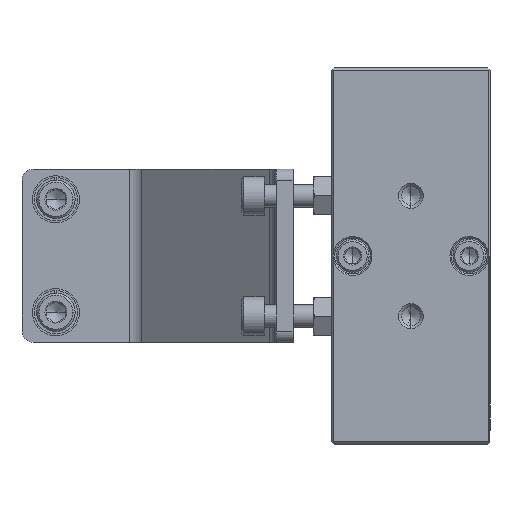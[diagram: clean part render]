
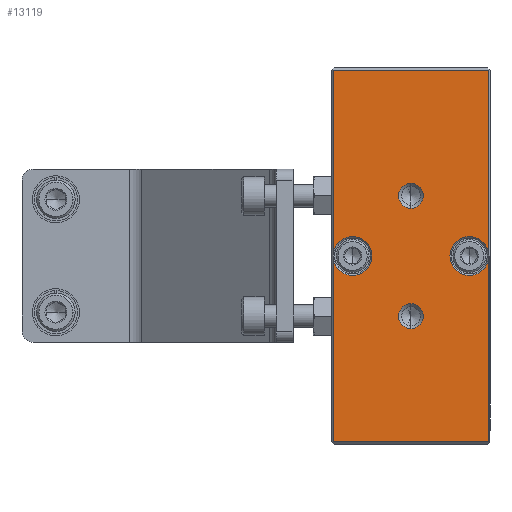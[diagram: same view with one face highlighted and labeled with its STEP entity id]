
A CAD part, left-side view. The second image highlights one B-rep face of the part: STEP entity #13119.
In plain terms, the highlighted planar face has unit normal (-1, 0, 0).
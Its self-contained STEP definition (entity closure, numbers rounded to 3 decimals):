
#511 = DIRECTION ( 'NONE',  ( 0., 0., 1. ) ) ;
#594 = CARTESIAN_POINT ( 'NONE',  ( -27., -20.6, 49.4 ) ) ;
#811 = CARTESIAN_POINT ( 'NONE',  ( -27., 0., 16. ) ) ;
#1122 = VECTOR ( 'NONE', #28813, 1000. ) ;
#1206 = EDGE_CURVE ( 'NONE', #13111, #19270, #12933, .T. ) ;
#1227 = VERTEX_POINT ( 'NONE', #19540 ) ;
#1351 = CARTESIAN_POINT ( 'NONE',  ( -27., 0., -16. ) ) ;
#1631 = LINE ( 'NONE', #7261, #17648 ) ;
#1732 = CARTESIAN_POINT ( 'NONE',  ( -27., 0., -12.7 ) ) ;
#2300 = ORIENTED_EDGE ( 'NONE', *, *, #5032, .T. ) ;
#3214 = EDGE_CURVE ( 'NONE', #23303, #13111, #21211, .T. ) ;
#3936 = DIRECTION ( 'NONE',  ( -1., 0., 0. ) ) ;
#4191 = VERTEX_POINT ( 'NONE', #36907 ) ;
#4200 = CIRCLE ( 'NONE', #22204, 3.3 ) ;
#4236 = CARTESIAN_POINT ( 'NONE',  ( -27., 0., 12.7 ) ) ;
#4483 = VECTOR ( 'NONE', #511, 1000. ) ;
#4630 = DIRECTION ( 'NONE',  ( 0., 0., 1. ) ) ;
#5032 = EDGE_CURVE ( 'NONE', #23491, #26998, #1631, .T. ) ;
#5531 = CARTESIAN_POINT ( 'NONE',  ( -27., 20.6, -49.4 ) ) ;
#5625 = ORIENTED_EDGE ( 'NONE', *, *, #39515, .F. ) ;
#5727 = CARTESIAN_POINT ( 'NONE',  ( -27., 20.6, -0.716 ) ) ;
#6043 = DIRECTION ( 'NONE',  ( 0., 0., 1. ) ) ;
#6820 = PLANE ( 'NONE',  #12896 ) ;
#7064 = ORIENTED_EDGE ( 'NONE', *, *, #19660, .F. ) ;
#7221 = CARTESIAN_POINT ( 'NONE',  ( -27., 0., 0. ) ) ;
#7261 = CARTESIAN_POINT ( 'NONE',  ( -27., 20.6, -49.4 ) ) ;
#7582 = EDGE_CURVE ( 'NONE', #37386, #20131, #15190, .T. ) ;
#7672 = CARTESIAN_POINT ( 'NONE',  ( -27., -15.5, 0. ) ) ;
#7750 = CIRCLE ( 'NONE', #9687, 5.15 ) ;
#8174 = CARTESIAN_POINT ( 'NONE',  ( -27., -20.6, 49.4 ) ) ;
#8330 = DIRECTION ( 'NONE',  ( -1., 0., 0. ) ) ;
#8469 = DIRECTION ( 'NONE',  ( -1., 0., 0. ) ) ;
#9506 = CARTESIAN_POINT ( 'NONE',  ( -27., 20.6, 0.716 ) ) ;
#9611 = DIRECTION ( 'NONE',  ( 0., 0., 1. ) ) ;
#9687 = AXIS2_PLACEMENT_3D ( 'NONE', #23227, #8330, #16558 ) ;
#9771 = EDGE_CURVE ( 'NONE', #22540, #22323, #13664, .T. ) ;
#9948 = ORIENTED_EDGE ( 'NONE', *, *, #23335, .F. ) ;
#10073 = ORIENTED_EDGE ( 'NONE', *, *, #15581, .T. ) ;
#10332 = EDGE_CURVE ( 'NONE', #22323, #30645, #35443, .T. ) ;
#10417 = DIRECTION ( 'NONE',  ( -1., 0., 0. ) ) ;
#10442 = ORIENTED_EDGE ( 'NONE', *, *, #9771, .F. ) ;
#10648 = CARTESIAN_POINT ( 'NONE',  ( -27., 15.5, 0. ) ) ;
#10840 = DIRECTION ( 'NONE',  ( 0., 0., 1. ) ) ;
#10905 = CIRCLE ( 'NONE', #19892, 3.3 ) ;
#10969 = DIRECTION ( 'NONE',  ( -1., 0., 0. ) ) ;
#11333 = ORIENTED_EDGE ( 'NONE', *, *, #34440, .F. ) ;
#11769 = DIRECTION ( 'NONE',  ( 0., 0., 1. ) ) ;
#12272 = VECTOR ( 'NONE', #25405, 1000. ) ;
#12601 = EDGE_CURVE ( 'NONE', #23491, #22540, #16013, .T. ) ;
#12896 = AXIS2_PLACEMENT_3D ( 'NONE', #7221, #31338, #15695 ) ;
#12933 = LINE ( 'NONE', #22572, #1122 ) ;
#13111 = VERTEX_POINT ( 'NONE', #594 ) ;
#13119 = ADVANCED_FACE ( 'NONE', ( #33961, #18682, #37538 ), #6820, .F. ) ;
#13664 = CIRCLE ( 'NONE', #24557, 5.15 ) ;
#13811 = EDGE_CURVE ( 'NONE', #23303, #34788, #14714, .T. ) ;
#14513 = CARTESIAN_POINT ( 'NONE',  ( -27., -15.5, 0. ) ) ;
#14714 = CIRCLE ( 'NONE', #35211, 5.15 ) ;
#14880 = ORIENTED_EDGE ( 'NONE', *, *, #13811, .F. ) ;
#15190 = CIRCLE ( 'NONE', #35028, 3.3 ) ;
#15302 = DIRECTION ( 'NONE',  ( -1., 0., 0. ) ) ;
#15422 = ORIENTED_EDGE ( 'NONE', *, *, #7582, .F. ) ;
#15581 = EDGE_CURVE ( 'NONE', #19270, #30645, #18769, .T. ) ;
#15695 = DIRECTION ( 'NONE',  ( 0., 0., -1. ) ) ;
#16013 = CIRCLE ( 'NONE', #17922, 5.15 ) ;
#16029 = DIRECTION ( 'NONE',  ( 0., 0., 1. ) ) ;
#16169 = CARTESIAN_POINT ( 'NONE',  ( -27., -20.6, 49.4 ) ) ;
#16558 = DIRECTION ( 'NONE',  ( 0., 0., 1. ) ) ;
#16709 = VERTEX_POINT ( 'NONE', #39381 ) ;
#16842 = ORIENTED_EDGE ( 'NONE', *, *, #20195, .F. ) ;
#16905 = CIRCLE ( 'NONE', #29801, 3.3 ) ;
#17000 = CARTESIAN_POINT ( 'NONE',  ( -27., 15.5, -5.15 ) ) ;
#17648 = VECTOR ( 'NONE', #25747, 1000. ) ;
#17783 = DIRECTION ( 'NONE',  ( -1., 0., 0. ) ) ;
#17901 = CARTESIAN_POINT ( 'NONE',  ( -27., -15.5, 5.15 ) ) ;
#17922 = AXIS2_PLACEMENT_3D ( 'NONE', #33913, #3936, #9611 ) ;
#18002 = CARTESIAN_POINT ( 'NONE',  ( -27., 0., 19.3 ) ) ;
#18303 = ORIENTED_EDGE ( 'NONE', *, *, #33405, .T. ) ;
#18595 = LINE ( 'NONE', #16169, #4483 ) ;
#18682 = FACE_BOUND ( 'NONE', #35709, .T. ) ;
#18769 = LINE ( 'NONE', #33861, #12272 ) ;
#19192 = CARTESIAN_POINT ( 'NONE',  ( -27., 20.6, 49.4 ) ) ;
#19270 = VERTEX_POINT ( 'NONE', #19192 ) ;
#19360 = VERTEX_POINT ( 'NONE', #1732 ) ;
#19540 = CARTESIAN_POINT ( 'NONE',  ( -27., -15.5, -5.15 ) ) ;
#19660 = EDGE_CURVE ( 'NONE', #20131, #37386, #10905, .T. ) ;
#19797 = DIRECTION ( 'NONE',  ( 0., 0., 1. ) ) ;
#19892 = AXIS2_PLACEMENT_3D ( 'NONE', #32675, #10969, #19797 ) ;
#20131 = VERTEX_POINT ( 'NONE', #4236 ) ;
#20178 = DIRECTION ( 'NONE',  ( 0., -1., 0. ) ) ;
#20195 = EDGE_CURVE ( 'NONE', #34788, #1227, #35347, .T. ) ;
#20999 = CARTESIAN_POINT ( 'NONE',  ( -27., -20.6, -0.716 ) ) ;
#21211 = LINE ( 'NONE', #8174, #38519 ) ;
#22204 = AXIS2_PLACEMENT_3D ( 'NONE', #30379, #15302, #6043 ) ;
#22323 = VERTEX_POINT ( 'NONE', #29540 ) ;
#22540 = VERTEX_POINT ( 'NONE', #17000 ) ;
#22572 = CARTESIAN_POINT ( 'NONE',  ( -27., 20.4, 49.4 ) ) ;
#22723 = AXIS2_PLACEMENT_3D ( 'NONE', #10648, #35126, #10840 ) ;
#23220 = CARTESIAN_POINT ( 'NONE',  ( -27., -20.4, -49.4 ) ) ;
#23227 = CARTESIAN_POINT ( 'NONE',  ( -27., -15.5, 0. ) ) ;
#23303 = VERTEX_POINT ( 'NONE', #33974 ) ;
#23335 = EDGE_CURVE ( 'NONE', #4191, #19360, #4200, .T. ) ;
#23491 = VERTEX_POINT ( 'NONE', #5727 ) ;
#24188 = ORIENTED_EDGE ( 'NONE', *, *, #1206, .T. ) ;
#24439 = DIRECTION ( 'NONE',  ( 0., 0., 1. ) ) ;
#24557 = AXIS2_PLACEMENT_3D ( 'NONE', #39677, #17783, #24439 ) ;
#24916 = EDGE_LOOP ( 'NONE', ( #2300, #25009, #18303, #11333, #16842, #14880, #27768, #24188, #10073, #38029, #10442, #31073 ) ) ;
#25009 = ORIENTED_EDGE ( 'NONE', *, *, #33587, .T. ) ;
#25343 = DIRECTION ( 'NONE',  ( -1., 0., 0. ) ) ;
#25405 = DIRECTION ( 'NONE',  ( 0., 0., -1. ) ) ;
#25747 = DIRECTION ( 'NONE',  ( 0., 0., -1. ) ) ;
#25761 = DIRECTION ( 'NONE',  ( -1., 0., 0. ) ) ;
#26998 = VERTEX_POINT ( 'NONE', #5531 ) ;
#27768 = ORIENTED_EDGE ( 'NONE', *, *, #3214, .T. ) ;
#28813 = DIRECTION ( 'NONE',  ( 0., 1., 0. ) ) ;
#29540 = CARTESIAN_POINT ( 'NONE',  ( -27., 15.5, 5.15 ) ) ;
#29801 = AXIS2_PLACEMENT_3D ( 'NONE', #1351, #10417, #16029 ) ;
#30170 = DIRECTION ( 'NONE',  ( 0., 0., 1. ) ) ;
#30379 = CARTESIAN_POINT ( 'NONE',  ( -27., 0., -16. ) ) ;
#30645 = VERTEX_POINT ( 'NONE', #9506 ) ;
#30921 = AXIS2_PLACEMENT_3D ( 'NONE', #7672, #25761, #4630 ) ;
#31073 = ORIENTED_EDGE ( 'NONE', *, *, #12601, .F. ) ;
#31338 = DIRECTION ( 'NONE',  ( 1., 0., 0. ) ) ;
#32156 = VERTEX_POINT ( 'NONE', #20999 ) ;
#32675 = CARTESIAN_POINT ( 'NONE',  ( -27., 0., 16. ) ) ;
#32762 = VECTOR ( 'NONE', #20178, 1000. ) ;
#33405 = EDGE_CURVE ( 'NONE', #16709, #32156, #18595, .T. ) ;
#33587 = EDGE_CURVE ( 'NONE', #26998, #16709, #35432, .T. ) ;
#33861 = CARTESIAN_POINT ( 'NONE',  ( -27., 20.6, -49.4 ) ) ;
#33913 = CARTESIAN_POINT ( 'NONE',  ( -27., 15.5, 0. ) ) ;
#33961 = FACE_BOUND ( 'NONE', #35792, .T. ) ;
#33974 = CARTESIAN_POINT ( 'NONE',  ( -27., -20.6, 0.716 ) ) ;
#34440 = EDGE_CURVE ( 'NONE', #1227, #32156, #7750, .T. ) ;
#34788 = VERTEX_POINT ( 'NONE', #17901 ) ;
#35028 = AXIS2_PLACEMENT_3D ( 'NONE', #811, #25343, #37559 ) ;
#35126 = DIRECTION ( 'NONE',  ( -1., 0., 0. ) ) ;
#35211 = AXIS2_PLACEMENT_3D ( 'NONE', #14513, #8469, #30170 ) ;
#35347 = CIRCLE ( 'NONE', #30921, 5.15 ) ;
#35432 = LINE ( 'NONE', #23220, #32762 ) ;
#35443 = CIRCLE ( 'NONE', #22723, 5.15 ) ;
#35709 = EDGE_LOOP ( 'NONE', ( #15422, #7064 ) ) ;
#35792 = EDGE_LOOP ( 'NONE', ( #5625, #9948 ) ) ;
#36907 = CARTESIAN_POINT ( 'NONE',  ( -27., 0., -19.3 ) ) ;
#37386 = VERTEX_POINT ( 'NONE', #18002 ) ;
#37538 = FACE_OUTER_BOUND ( 'NONE', #24916, .T. ) ;
#37559 = DIRECTION ( 'NONE',  ( 0., 0., 1. ) ) ;
#38029 = ORIENTED_EDGE ( 'NONE', *, *, #10332, .F. ) ;
#38519 = VECTOR ( 'NONE', #11769, 1000. ) ;
#39381 = CARTESIAN_POINT ( 'NONE',  ( -27., -20.6, -49.4 ) ) ;
#39515 = EDGE_CURVE ( 'NONE', #19360, #4191, #16905, .T. ) ;
#39677 = CARTESIAN_POINT ( 'NONE',  ( -27., 15.5, 0. ) ) ;
